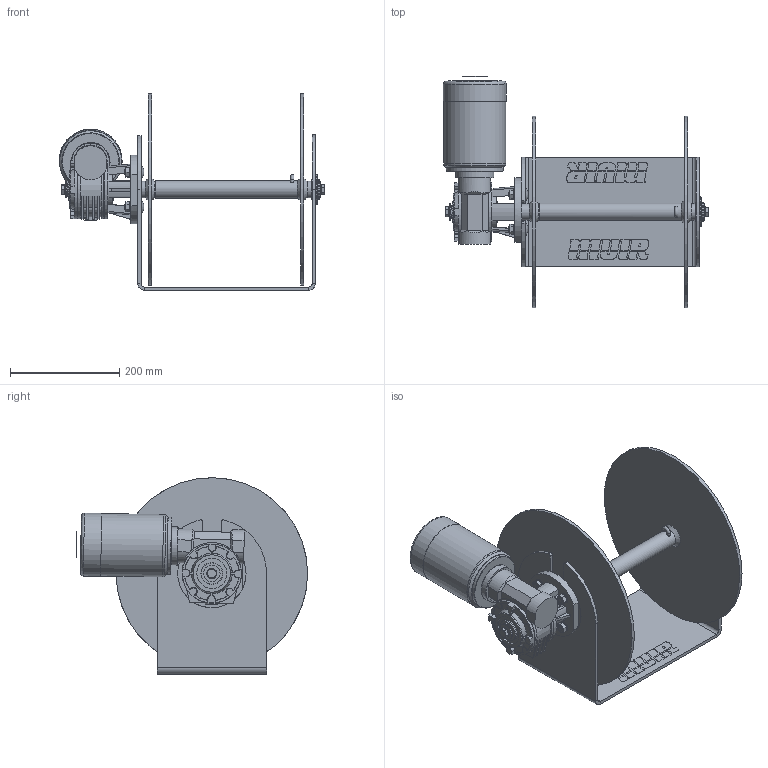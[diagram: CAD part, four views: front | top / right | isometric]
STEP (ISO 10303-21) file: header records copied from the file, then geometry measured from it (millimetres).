
FILE_DESCRIPTION(/* description */ (''),/* implementation_level */ '2;1');
FILE_NAME(/* name */ 'DW10.stp',/* time_stamp */ '2025-12-08T08:51:44+11:00',/* author */ ('markus.mendgen'),/* organization */ (''),/* preprocessor_version */ 'ST-DEVELOPER v20',/* originating_system */ 'Autodesk Inventor 2025',/* authorisation */ '');
FILE_SCHEMA (('AUTOMOTIVE_DESIGN { 1 0 10303 214 3 1 1 }'));
Length unit declared in the file: millimetre
Products named in the file (1): DW10
Bounding box: 485.22 x 422.57 x 359.21 mm (x, y, z)
Volume: 5153672.5 mm3; surface area: 940248.9 mm2
Topology: 1 solids, 2 shells, 999 faces, 2620 edges, 1647 vertices
Faces by surface type: cylinder 419, plane 418, torus 53, cone 51, sphere 36, bspline 22
Full cylindrical faces by diameter (mm): 6.5 x2, 10 x6, 22 x1, 23 x1, 23.2 x1, 24.65 x4, 24.96 x1, 27 x1, 30 x4, 31.75 x1, 35 x1, 35.3 x1, 40 x2, 55 x3, 68 x1, 70 x2, 104.5 x1, 107 x2, 107.5 x1, 113.5 x1, 114 x1, 115 x1, 125 x1, 350 x2
Entity records: 31984 total; most frequent: CARTESIAN_POINT 6956, DIRECTION 5549, ORIENTED_EDGE 5164, EDGE_CURVE 2584, AXIS2_PLACEMENT_3D 2160, VERTEX_POINT 1647, LINE 1229, VECTOR 1229
